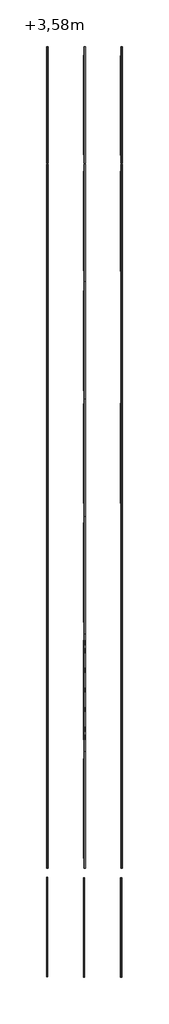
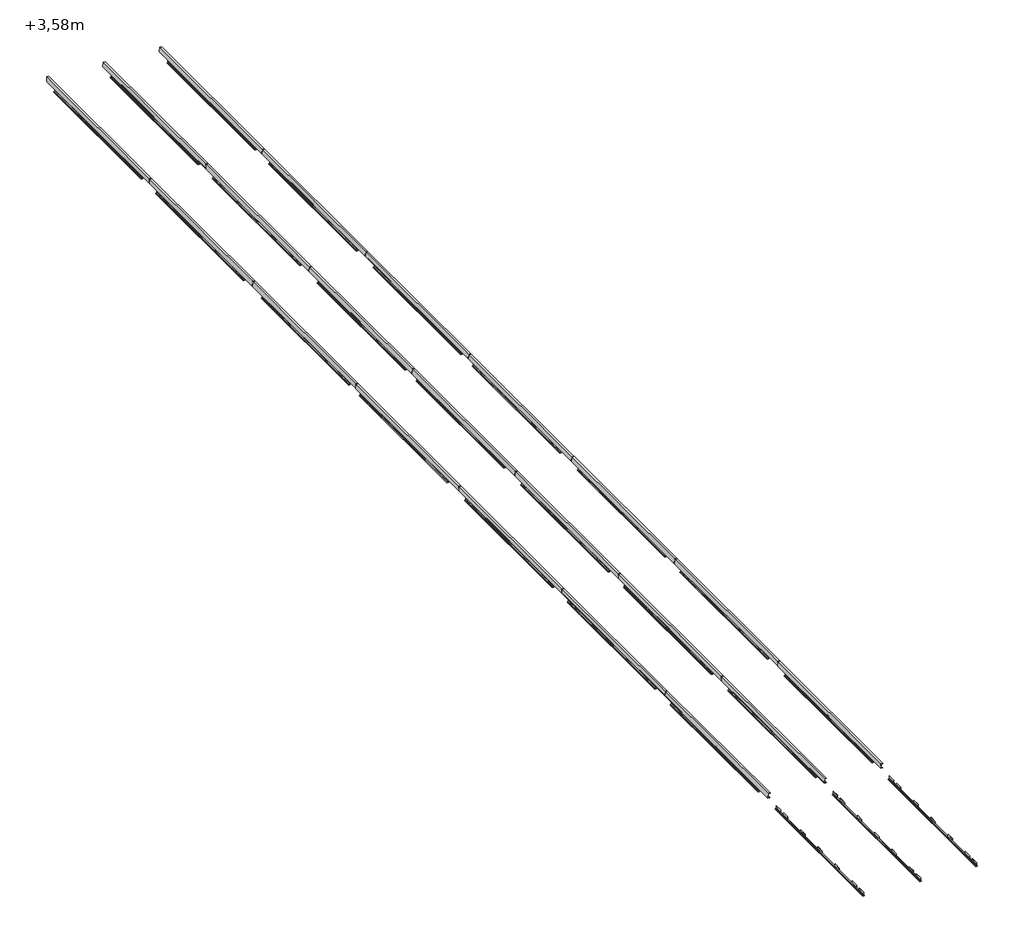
# One storey: 45 beams.
"""IFC4 building model written with IfcOpenShell, lengths in millimetres."""

from ifc_helpers import new_model, si_unit, origin, place, context, project, spatial, transform, mapped, element, save
from components import beam_1_2i120_fef7989f, c160_676f0d43, c160_97cef8d6, c160_1365dad8

model = new_model("IFC4")

# Units and contexts
model_context = context("Model", 3, world=origin())
ifc_project = project(units=[si_unit("LENGTHUNIT", "METRE", prefix="MILLI")], contexts=[model_context])

# Site, building, storey
site = spatial("IfcSite", under=ifc_project)
building = spatial("IfcBuilding", under=site)
storey = spatial("IfcBuildingStorey", under=building, Name="+3,58m", Elevation=3580.0)

# Beams
placement = place(None, origin())
beam_1_2i120_shape = beam_1_2i120_fef7989f(model_context)
element("IfcBeam", 1, ObjectType="Wzmocnienie do belek - dokładny podział : 1/2I120", at=placement, inside=storey, context=model_context, shape_type="MappedRepresentation", body=[
    mapped(beam_1_2i120_shape, transform((6348.3479236, -30445.2129605, 4070.7027211), x_axis=(0.0, 1.0, 0.0), y_axis=(-0.997461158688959, 0.0, 0.07121261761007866), z_axis=(0.07121261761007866, 0.0, 0.997461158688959))),
])
element("IfcBeam", 2, ObjectType="Wzmocnienie do belek - dokładny podział : 1/2I120", at=placement, inside=storey, context=model_context, shape_type="MappedRepresentation", body=[
    mapped(beam_1_2i120_shape, transform((8243.9111373, -30470.6776346, 3935.3711173), x_axis=(0.0, 1.0, 0.0), y_axis=(-0.997461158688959, 0.0, 0.07121261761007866), z_axis=(0.07121261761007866, 0.0, 0.997461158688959))),
])
element("IfcBeam", 3, ObjectType="Wzmocnienie do belek - dokładny podział : 1/2I120", at=placement, inside=storey, context=model_context, shape_type="MappedRepresentation", body=[
    mapped(beam_1_2i120_shape, transform((10140.0451321, -30456.5566527, 3799.9987633), x_axis=(0.0, 1.0, 0.0), y_axis=(-0.997461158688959, 0.0, 0.07121261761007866), z_axis=(0.07121261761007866, 0.0, 0.997461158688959))),
])
element("IfcBeam", 4, ObjectType="Wzmocnienie do belek - dokładny podział : 1/2I120", at=placement, inside=storey, context=model_context, shape_type="MappedRepresentation", body=[
    mapped(beam_1_2i120_shape, transform((6338.6215985, -24341.4095905, 4071.3971211), x_axis=(0.0, 1.0, 0.0), y_axis=(-0.997461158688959, 0.0, 0.07121261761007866), z_axis=(0.07121261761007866, 0.0, 0.997461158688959))),
])
element("IfcBeam", 5, ObjectType="Wzmocnienie do belek - dokładny podział : 1/2I120", at=placement, inside=storey, context=model_context, shape_type="MappedRepresentation", body=[
    mapped(beam_1_2i120_shape, transform((8246.7366501, -24384.2956708, 3935.169393), x_axis=(0.0, 1.0, 0.0), y_axis=(-0.997461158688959, 0.0, 0.07121261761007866), z_axis=(0.07121261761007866, 0.0, 0.997461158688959))),
])
element("IfcBeam", 6, ObjectType="Wzmocnienie do belek - dokładny podział : 1/2I120", at=placement, inside=storey, context=model_context, shape_type="MappedRepresentation", body=[
    mapped(beam_1_2i120_shape, transform((10148.6738726, -24390.6886719, 3799.3827241), x_axis=(0.0, 1.0, 0.0), y_axis=(-0.997461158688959, 0.0, 0.07121261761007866), z_axis=(0.07121261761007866, 0.0, 0.997461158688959))),
])
element("IfcBeam", 7, ObjectType="Wzmocnienie do belek - dokładny podział : 1/2I120", at=placement, inside=storey, context=model_context, shape_type="MappedRepresentation", body=[
    mapped(beam_1_2i120_shape, transform((6353.9069813, -18323.485195, 4070.3058384), x_axis=(0.0, 1.0, 0.0), y_axis=(-0.997461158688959, 0.0, 0.07121261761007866), z_axis=(0.07121261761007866, 0.0, 0.997461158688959))),
])
element("IfcBeam", 8, ObjectType="Wzmocnienie do belek - dokładny podział : 1/2I120", at=placement, inside=storey, context=model_context, shape_type="MappedRepresentation", body=[
    mapped(beam_1_2i120_shape, transform((8243.7590061, -18330.9109397, 3935.3819786), x_axis=(0.0, 1.0, 0.0), y_axis=(-0.997461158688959, 0.0, 0.07121261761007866), z_axis=(0.07121261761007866, 0.0, 0.997461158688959))),
])
element("IfcBeam", 9, ObjectType="Wzmocnienie do belek - dokładny podział : 1/2I120", at=placement, inside=storey, context=model_context, shape_type="MappedRepresentation", body=[
    mapped(beam_1_2i120_shape, transform((10145.8924773, -18308.1231311, 3799.5812987), x_axis=(0.0, 1.0, 0.0), y_axis=(-0.997461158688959, 0.0, 0.07121261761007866), z_axis=(0.07121261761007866, 0.0, 0.997461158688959))),
])
element("IfcBeam", 10, ObjectType="Wzmocnienie do belek - dokładny podział : 1/2I120", at=placement, inside=storey, context=model_context, shape_type="MappedRepresentation", body=[
    mapped(beam_1_2i120_shape, transform((6348.2725201, -12368.4269213, 4070.7081044), x_axis=(0.0, 1.0, 0.0), y_axis=(-0.997461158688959, 0.0, 0.07121261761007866), z_axis=(0.07121261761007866, 0.0, 0.997461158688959))),
])
element("IfcBeam", 11, ObjectType="Wzmocnienie do belek - dokładny podział : 1/2I120", at=placement, inside=storey, context=model_context, shape_type="MappedRepresentation", body=[
    mapped(beam_1_2i120_shape, transform((8247.870597, -12334.4186178, 3935.0884361), x_axis=(0.0, 1.0, 0.0), y_axis=(-0.997461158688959, 0.0, 0.07121261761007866), z_axis=(0.07121261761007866, 0.0, 0.997461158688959))),
])
element("IfcBeam", 12, ObjectType="Wzmocnienie do belek - dokładny podział : 1/2I120", at=placement, inside=storey, context=model_context, shape_type="MappedRepresentation", body=[
    mapped(beam_1_2i120_shape, transform((10150.9278839, -12330.6896026, 3799.2218015), x_axis=(0.0, 1.0, 0.0), y_axis=(-0.997461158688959, 0.0, 0.07121261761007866), z_axis=(0.07121261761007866, 0.0, 0.997461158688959))),
])
element("IfcBeam", 13, ObjectType="Wzmocnienie do belek - dokładny podział : 1/2I120", at=placement, inside=storey, context=model_context, shape_type="MappedRepresentation", body=[
    mapped(beam_1_2i120_shape, transform((6350.8816362, -6234.3166348, 4070.5218295), x_axis=(0.0, 1.0, 0.0), y_axis=(-0.997461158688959, 0.0, 0.07121261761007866), z_axis=(0.07121261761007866, 0.0, 0.997461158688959))),
])
element("IfcBeam", 14, ObjectType="Wzmocnienie do belek - dokładny podział : 1/2I120", at=placement, inside=storey, context=model_context, shape_type="MappedRepresentation", body=[
    mapped(beam_1_2i120_shape, transform((8248.1594056, -6245.4552518, 3935.067817), x_axis=(0.0, 1.0, 0.0), y_axis=(-0.997461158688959, 0.0, 0.07121261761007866), z_axis=(0.07121261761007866, 0.0, 0.997461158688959))),
])
element("IfcBeam", 15, ObjectType="Wzmocnienie do belek - dokładny podział : 1/2I120", at=placement, inside=storey, context=model_context, shape_type="MappedRepresentation", body=[
    mapped(beam_1_2i120_shape, transform((10141.120961, -6240.4521563, 3799.9219557), x_axis=(0.0, 1.0, 0.0), y_axis=(-0.997461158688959, 0.0, 0.07121261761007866), z_axis=(0.07121261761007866, 0.0, 0.997461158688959))),
])
element("IfcBeam", 16, ObjectType="Wzmocnienie do belek - dokładny podział : 1/2I120", at=placement, inside=storey, context=model_context, shape_type="MappedRepresentation", body=[
    mapped(beam_1_2i120_shape, transform((6350.0807138, -519.7263085, 4070.5790105), x_axis=(0.0, 1.0, 0.0), y_axis=(-0.997461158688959, 0.0, 0.07121261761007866), z_axis=(0.07121261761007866, 0.0, 0.997461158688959))),
])
element("IfcBeam", 17, ObjectType="Wzmocnienie do belek - dokładny podział : 1/2I120", at=placement, inside=storey, context=model_context, shape_type="MappedRepresentation", body=[
    mapped(beam_1_2i120_shape, transform((8248.286649, -495.4150137, 3935.0587326), x_axis=(0.0, 1.0, 0.0), y_axis=(-0.997461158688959, 0.0, 0.07121261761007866), z_axis=(0.07121261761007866, 0.0, 0.997461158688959))),
])
element("IfcBeam", 18, ObjectType="Wzmocnienie do belek - dokładny podział : 1/2I120", at=placement, inside=storey, context=model_context, shape_type="MappedRepresentation", body=[
    mapped(beam_1_2i120_shape, transform((10145.9315005, -458.9409785, 3799.5785126), x_axis=(0.0, 1.0, 0.0), y_axis=(-0.997461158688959, 0.0, 0.07121261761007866), z_axis=(0.07121261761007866, 0.0, 0.997461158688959))),
])
element("IfcBeam", 19, ObjectType="Wzmocnienie do belek - dokładny podział : 1/2I120", at=placement, inside=storey, context=model_context, shape_type="MappedRepresentation", body=[
    mapped(beam_1_2i120_shape, transform((6349.2964365, 5621.8557396, 4070.6350031), x_axis=(0.0, 1.0, 0.0), y_axis=(-0.997461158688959, 0.0, 0.07121261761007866), z_axis=(0.07121261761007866, 0.0, 0.997461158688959))),
])
element("IfcBeam", 20, ObjectType="Wzmocnienie do belek - dokładny podział : 1/2I120", at=placement, inside=storey, context=model_context, shape_type="MappedRepresentation", body=[
    mapped(beam_1_2i120_shape, transform((8245.0890571, 5617.5859364, 3935.2870211), x_axis=(0.0, 1.0, 0.0), y_axis=(-0.997461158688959, 0.0, 0.07121261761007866), z_axis=(0.07121261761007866, 0.0, 0.997461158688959))),
])
element("IfcBeam", 21, ObjectType="Wzmocnienie do belek - dokładny podział : 1/2I120", at=placement, inside=storey, context=model_context, shape_type="MappedRepresentation", body=[
    mapped(beam_1_2i120_shape, transform((10140.8816776, 5609.04633, 3799.9390391), x_axis=(0.0, 1.0, 0.0), y_axis=(-0.997461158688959, 0.0, 0.07121261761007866), z_axis=(0.07121261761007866, 0.0, 0.997461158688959))),
])
element("IfcBeam", 22, ObjectType="Wzmocnienie do belek - dokładny podział : 1/2I120", at=placement, inside=storey, context=model_context, shape_type="MappedRepresentation", body=[
    mapped(beam_1_2i120_shape, transform((6351.2567001, 11567.911293, 4070.4950523), x_axis=(0.0, 1.0, 0.0), y_axis=(-0.997461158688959, 0.0, 0.07121261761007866), z_axis=(0.07121261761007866, 0.0, 0.997461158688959))),
])
element("IfcBeam", 23, ObjectType="Wzmocnienie do belek - dokładny podział : 1/2I120", at=placement, inside=storey, context=model_context, shape_type="MappedRepresentation", body=[
    mapped(beam_1_2i120_shape, transform((8247.0493206, 11546.562277, 3935.1470702), x_axis=(0.0, 1.0, 0.0), y_axis=(-0.997461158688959, 0.0, 0.07121261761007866), z_axis=(0.07121261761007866, 0.0, 0.997461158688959))),
])
element("IfcBeam", 24, ObjectType="Wzmocnienie do belek - dokładny podział : 1/2I120", at=placement, inside=storey, context=model_context, shape_type="MappedRepresentation", body=[
    mapped(beam_1_2i120_shape, transform((10141.3075166, 11529.0670514, 3799.9086368), x_axis=(0.0, 1.0, 0.0), y_axis=(-0.997461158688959, 0.0, 0.07121261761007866), z_axis=(0.07121261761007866, 0.0, 0.997461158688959))),
])
c160_shape = c160_676f0d43(model_context)
element("IfcBeam", 25, ObjectType="RPLN C - Ceowniki normalne : C160", at=placement, inside=storey, context=model_context, shape_type="MappedRepresentation", body=[
    mapped(c160_shape, transform((6344.3186079, 14087.5183415, 4151.1940138), x_axis=(0.0, 1.0, 0.0), y_axis=(-0.997461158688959, 0.0, 0.07121261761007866), z_axis=(0.07121261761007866, 0.0, 0.997461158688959))),
])
element("IfcBeam", 26, ObjectType="RPLN C - Ceowniki normalne : C160", at=placement, inside=storey, context=model_context, shape_type="MappedRepresentation", body=[
    mapped(c160_shape, transform((8239.4941285, 14087.5183415, 4015.890089), x_axis=(0.0, 1.0, 0.0), y_axis=(-0.997461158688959, 0.0, 0.07121261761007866), z_axis=(0.07121261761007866, 0.0, 0.997461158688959))),
])
element("IfcBeam", 27, ObjectType="RPLN C - Ceowniki normalne : C160", at=placement, inside=storey, context=model_context, shape_type="MappedRepresentation", body=[
    mapped(c160_shape, transform((10134.6671984, 14087.5183415, 3880.5863391), x_axis=(0.0, 1.0, 0.0), y_axis=(-0.997461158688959, 0.0, 0.07121261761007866), z_axis=(0.07121261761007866, 0.0, 0.997461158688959))),
])
c160_2_shape = c160_97cef8d6(model_context)
element("IfcBeam", 28, ObjectType="RPLN C - Ceowniki normalne : C160", at=placement, inside=storey, context=model_context, shape_type="MappedRepresentation", body=[
    mapped(c160_2_shape, transform((6344.3186079, -21912.4816585, 4151.1940138), x_axis=(0.0, 1.0, 0.0), y_axis=(-0.997461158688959, 0.0, 0.07121261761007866), z_axis=(0.07121261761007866, 0.0, 0.997461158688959))),
])
element("IfcBeam", 29, ObjectType="RPLN C - Ceowniki normalne : C160", at=placement, inside=storey, context=model_context, shape_type="MappedRepresentation", body=[
    mapped(c160_2_shape, transform((8239.4941285, -21912.4816585, 4015.890089), x_axis=(0.0, 1.0, 0.0), y_axis=(-0.997461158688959, 0.0, 0.07121261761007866), z_axis=(0.07121261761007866, 0.0, 0.997461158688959))),
])
element("IfcBeam", 30, ObjectType="RPLN C - Ceowniki normalne : C160", at=placement, inside=storey, context=model_context, shape_type="MappedRepresentation", body=[
    mapped(c160_2_shape, transform((10134.6671984, -21912.4816585, 3880.5863391), x_axis=(0.0, 1.0, 0.0), y_axis=(-0.997461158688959, 0.0, 0.07121261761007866), z_axis=(0.07121261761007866, 0.0, 0.997461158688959))),
])
element("IfcBeam", 31, ObjectType="RPLN C - Ceowniki normalne : C160", at=placement, inside=storey, context=model_context, shape_type="MappedRepresentation", body=[
    mapped(c160_2_shape, transform((6344.3186079, -15912.4816585, 4151.1940138), x_axis=(0.0, 1.0, 0.0), y_axis=(-0.997461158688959, 0.0, 0.07121261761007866), z_axis=(0.07121261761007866, 0.0, 0.997461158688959))),
])
element("IfcBeam", 32, ObjectType="RPLN C - Ceowniki normalne : C160", at=placement, inside=storey, context=model_context, shape_type="MappedRepresentation", body=[
    mapped(c160_2_shape, transform((8239.4941285, -15912.4816585, 4015.890089), x_axis=(0.0, 1.0, 0.0), y_axis=(-0.997461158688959, 0.0, 0.07121261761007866), z_axis=(0.07121261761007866, 0.0, 0.997461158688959))),
])
element("IfcBeam", 33, ObjectType="RPLN C - Ceowniki normalne : C160", at=placement, inside=storey, context=model_context, shape_type="MappedRepresentation", body=[
    mapped(c160_2_shape, transform((10134.6671984, -15912.4816585, 3880.5863391), x_axis=(0.0, 1.0, 0.0), y_axis=(-0.997461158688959, 0.0, 0.07121261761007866), z_axis=(0.07121261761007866, 0.0, 0.997461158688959))),
])
element("IfcBeam", 34, ObjectType="RPLN C - Ceowniki normalne : C160", at=placement, inside=storey, context=model_context, shape_type="MappedRepresentation", body=[
    mapped(c160_2_shape, transform((6344.3186079, -9912.4816585, 4151.1940138), x_axis=(0.0, 1.0, 0.0), y_axis=(-0.997461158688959, 0.0, 0.07121261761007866), z_axis=(0.07121261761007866, 0.0, 0.997461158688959))),
])
element("IfcBeam", 35, ObjectType="RPLN C - Ceowniki normalne : C160", at=placement, inside=storey, context=model_context, shape_type="MappedRepresentation", body=[
    mapped(c160_2_shape, transform((8239.4941285, -9912.4816585, 4015.890089), x_axis=(0.0, 1.0, 0.0), y_axis=(-0.997461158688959, 0.0, 0.07121261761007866), z_axis=(0.07121261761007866, 0.0, 0.997461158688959))),
])
element("IfcBeam", 36, ObjectType="RPLN C - Ceowniki normalne : C160", at=placement, inside=storey, context=model_context, shape_type="MappedRepresentation", body=[
    mapped(c160_2_shape, transform((10134.6671984, -9912.4816585, 3880.5863391), x_axis=(0.0, 1.0, 0.0), y_axis=(-0.997461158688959, 0.0, 0.07121261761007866), z_axis=(0.07121261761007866, 0.0, 0.997461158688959))),
])
element("IfcBeam", 37, ObjectType="RPLN C - Ceowniki normalne : C160", at=placement, inside=storey, context=model_context, shape_type="MappedRepresentation", body=[
    mapped(c160_2_shape, transform((6344.3186079, -3912.4816585, 4151.1940138), x_axis=(0.0, 1.0, 0.0), y_axis=(-0.997461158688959, 0.0, 0.07121261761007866), z_axis=(0.07121261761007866, 0.0, 0.997461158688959))),
])
element("IfcBeam", 38, ObjectType="RPLN C - Ceowniki normalne : C160", at=placement, inside=storey, context=model_context, shape_type="MappedRepresentation", body=[
    mapped(c160_2_shape, transform((8239.4941285, -3912.4816585, 4015.890089), x_axis=(0.0, 1.0, 0.0), y_axis=(-0.997461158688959, 0.0, 0.07121261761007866), z_axis=(0.07121261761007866, 0.0, 0.997461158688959))),
])
element("IfcBeam", 39, ObjectType="RPLN C - Ceowniki normalne : C160", at=placement, inside=storey, context=model_context, shape_type="MappedRepresentation", body=[
    mapped(c160_2_shape, transform((10134.6671984, -3912.4816585, 3880.5863391), x_axis=(0.0, 1.0, 0.0), y_axis=(-0.997461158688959, 0.0, 0.07121261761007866), z_axis=(0.07121261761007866, 0.0, 0.997461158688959))),
])
element("IfcBeam", 40, ObjectType="RPLN C - Ceowniki normalne : C160", at=placement, inside=storey, context=model_context, shape_type="MappedRepresentation", body=[
    mapped(c160_2_shape, transform((6344.3186079, 2087.5183415, 4151.1940138), x_axis=(0.0, 1.0, 0.0), y_axis=(-0.997461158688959, 0.0, 0.07121261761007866), z_axis=(0.07121261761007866, 0.0, 0.997461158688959))),
])
element("IfcBeam", 41, ObjectType="RPLN C - Ceowniki normalne : C160", at=placement, inside=storey, context=model_context, shape_type="MappedRepresentation", body=[
    mapped(c160_2_shape, transform((8239.4941285, 2087.5183415, 4015.890089), x_axis=(0.0, 1.0, 0.0), y_axis=(-0.997461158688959, 0.0, 0.07121261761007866), z_axis=(0.07121261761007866, 0.0, 0.997461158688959))),
])
element("IfcBeam", 42, ObjectType="RPLN C - Ceowniki normalne : C160", at=placement, inside=storey, context=model_context, shape_type="MappedRepresentation", body=[
    mapped(c160_2_shape, transform((10134.6671984, 2087.5183415, 3880.5863391), x_axis=(0.0, 1.0, 0.0), y_axis=(-0.997461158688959, 0.0, 0.07121261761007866), z_axis=(0.07121261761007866, 0.0, 0.997461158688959))),
])
c160_3_shape = c160_1365dad8(model_context)
element("IfcBeam", 43, ObjectType="RPLN C - Ceowniki normalne : C160", at=placement, inside=storey, context=model_context, shape_type="MappedRepresentation", body=[
    mapped(c160_3_shape, transform((6344.3186079, 8087.5183415, 4151.1940138), x_axis=(0.0, 1.0, 0.0), y_axis=(-0.997461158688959, 0.0, 0.07121261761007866), z_axis=(0.07121261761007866, 0.0, 0.997461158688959))),
])
element("IfcBeam", 44, ObjectType="RPLN C - Ceowniki normalne : C160", at=placement, inside=storey, context=model_context, shape_type="MappedRepresentation", body=[
    mapped(c160_3_shape, transform((8239.4941285, 8087.5183415, 4015.890089), x_axis=(0.0, 1.0, 0.0), y_axis=(-0.997461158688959, 0.0, 0.07121261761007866), z_axis=(0.07121261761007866, 0.0, 0.997461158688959))),
])
element("IfcBeam", 45, ObjectType="RPLN C - Ceowniki normalne : C160", at=placement, inside=storey, context=model_context, shape_type="MappedRepresentation", body=[
    mapped(c160_3_shape, transform((10134.6671984, 8087.5183415, 3880.5863391), x_axis=(0.0, 1.0, 0.0), y_axis=(-0.997461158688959, 0.0, 0.07121261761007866), z_axis=(0.07121261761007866, 0.0, 0.997461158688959))),
])

save(model, "model.ifc")
